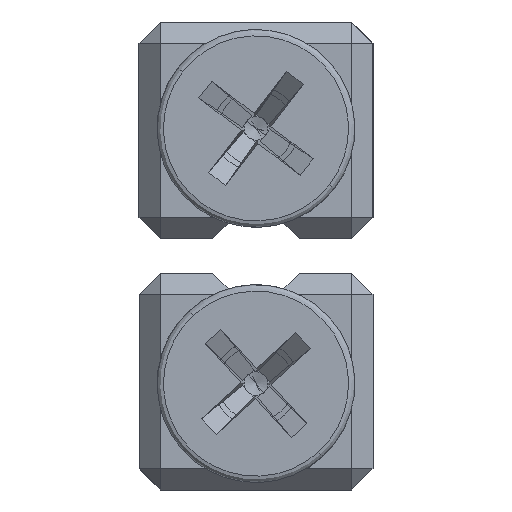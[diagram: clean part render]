
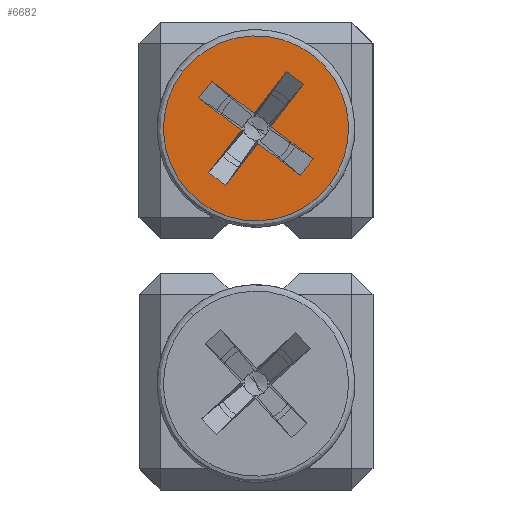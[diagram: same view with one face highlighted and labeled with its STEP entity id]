
A CAD part, left-side view. The second image highlights one B-rep face of the part: STEP entity #6682.
In plain terms, the highlighted planar face has unit normal (-1, 0, 0).
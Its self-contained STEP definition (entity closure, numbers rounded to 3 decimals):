
#59 = ORIENTED_EDGE ( 'NONE', *, *, #5593, .T. ) ;
#138 = VECTOR ( 'NONE', #4276, 1000. ) ;
#169 = DIRECTION ( 'NONE',  ( 0., -0.793, -0.609 ) ) ;
#193 = DIRECTION ( 'NONE',  ( 0., 0.793, 0.609 ) ) ;
#204 = EDGE_CURVE ( 'NONE', #3145, #6213, #6285, .T. ) ;
#288 = VECTOR ( 'NONE', #9930, 1000. ) ;
#388 = LINE ( 'NONE', #4364, #138 ) ;
#395 = LINE ( 'NONE', #9223, #288 ) ;
#410 = CARTESIAN_POINT ( 'NONE',  ( -222., 2.074, 14.125 ) ) ;
#598 = CIRCLE ( 'NONE', #6299, 4.35 ) ;
#611 = EDGE_LOOP ( 'NONE', ( #4221, #622 ) ) ;
#613 = DIRECTION ( 'NONE',  ( 0., -0.793, -0.609 ) ) ;
#618 = EDGE_CURVE ( 'NONE', #10939, #993, #2156, .T. ) ;
#622 = ORIENTED_EDGE ( 'NONE', *, *, #3072, .T. ) ;
#781 = FACE_BOUND ( 'NONE', #10329, .T. ) ;
#926 = FACE_OUTER_BOUND ( 'NONE', #611, .T. ) ;
#993 = VERTEX_POINT ( 'NONE', #5377 ) ;
#1005 = CARTESIAN_POINT ( 'NONE',  ( -222., -1.432, 14.583 ) ) ;
#1059 = ORIENTED_EDGE ( 'NONE', *, *, #9067, .F. ) ;
#1122 = AXIS2_PLACEMENT_3D ( 'NONE', #3041, #2534, #6489 ) ;
#1283 = CARTESIAN_POINT ( 'NONE',  ( -222., 2.225, 9.826 ) ) ;
#1409 = EDGE_CURVE ( 'NONE', #9754, #10939, #5006, .T. ) ;
#1435 = DIRECTION ( 'NONE',  ( 0., -0.793, -0.609 ) ) ;
#1891 = ORIENTED_EDGE ( 'NONE', *, *, #10918, .F. ) ;
#1919 = VECTOR ( 'NONE', #6579, 1000. ) ;
#1929 = CARTESIAN_POINT ( 'NONE',  ( -222., 2.225, 9.826 ) ) ;
#1941 = ORIENTED_EDGE ( 'NONE', *, *, #4985, .F. ) ;
#1982 = ORIENTED_EDGE ( 'NONE', *, *, #618, .T. ) ;
#2156 = LINE ( 'NONE', #7064, #1919 ) ;
#2220 = DIRECTION ( 'NONE',  ( 0., -0.609, 0.793 ) ) ;
#2276 = CARTESIAN_POINT ( 'NONE',  ( -222., 2.683, 13.332 ) ) ;
#2317 = CARTESIAN_POINT ( 'NONE',  ( -222., 2.074, 14.125 ) ) ;
#2534 = DIRECTION ( 'NONE',  ( -1., 0., 0. ) ) ;
#2657 = CARTESIAN_POINT ( 'NONE',  ( -222., 2.225, 9.826 ) ) ;
#2765 = EDGE_CURVE ( 'NONE', #9754, #6213, #395, .T. ) ;
#2777 = VERTEX_POINT ( 'NONE', #8272 ) ;
#2908 = DIRECTION ( 'NONE',  ( -1., 0., 0. ) ) ;
#3041 = CARTESIAN_POINT ( 'NONE',  ( -222., 0., 11.9 ) ) ;
#3072 = EDGE_CURVE ( 'NONE', #6516, #7557, #6643, .T. ) ;
#3145 = VERTEX_POINT ( 'NONE', #3664 ) ;
#3177 = VECTOR ( 'NONE', #6986, 1000. ) ;
#3313 = ORIENTED_EDGE ( 'NONE', *, *, #10317, .T. ) ;
#3469 = LINE ( 'NONE', #6181, #5191 ) ;
#3599 = CARTESIAN_POINT ( 'NONE',  ( -222., 2.225, 9.826 ) ) ;
#3664 = CARTESIAN_POINT ( 'NONE',  ( -222., -0.701, 11.992 ) ) ;
#3679 = DIRECTION ( 'NONE',  ( 0., 0.793, 0.609 ) ) ;
#3808 = ORIENTED_EDGE ( 'NONE', *, *, #4933, .T. ) ;
#3841 = VERTEX_POINT ( 'NONE', #2276 ) ;
#3886 = EDGE_CURVE ( 'NONE', #5922, #8430, #5028, .T. ) ;
#4127 = ORIENTED_EDGE ( 'NONE', *, *, #2765, .F. ) ;
#4221 = ORIENTED_EDGE ( 'NONE', *, *, #10383, .T. ) ;
#4276 = DIRECTION ( 'NONE',  ( 0., 0.793, 0.609 ) ) ;
#4364 = CARTESIAN_POINT ( 'NONE',  ( -222., -2.074, 9.675 ) ) ;
#4500 = VECTOR ( 'NONE', #169, 1000. ) ;
#4501 = CARTESIAN_POINT ( 'NONE',  ( -222., -2.683, 10.468 ) ) ;
#4792 = CARTESIAN_POINT ( 'NONE',  ( -222., 0.701, 11.808 ) ) ;
#4933 = EDGE_CURVE ( 'NONE', #8430, #9802, #10477, .T. ) ;
#4947 = VECTOR ( 'NONE', #3679, 1000. ) ;
#4972 = VECTOR ( 'NONE', #193, 1000. ) ;
#4984 = ORIENTED_EDGE ( 'NONE', *, *, #1409, .T. ) ;
#4985 = EDGE_CURVE ( 'NONE', #9774, #993, #9569, .T. ) ;
#5006 = LINE ( 'NONE', #5290, #4972 ) ;
#5028 = LINE ( 'NONE', #410, #4500 ) ;
#5191 = VECTOR ( 'NONE', #7804, 1000. ) ;
#5227 = LINE ( 'NONE', #9545, #4947 ) ;
#5290 = CARTESIAN_POINT ( 'NONE',  ( -222., -2.074, 9.675 ) ) ;
#5377 = CARTESIAN_POINT ( 'NONE',  ( -222., 1.432, 9.217 ) ) ;
#5416 = CARTESIAN_POINT ( 'NONE',  ( -222., 3.449, 14.551 ) ) ;
#5540 = DIRECTION ( 'NONE',  ( 0., 0.793, 0.609 ) ) ;
#5559 = DIRECTION ( 'NONE',  ( 1., 0., 0. ) ) ;
#5593 = EDGE_CURVE ( 'NONE', #8182, #3841, #388, .T. ) ;
#5660 = CARTESIAN_POINT ( 'NONE',  ( -222., -2.834, 15.587 ) ) ;
#5922 = VERTEX_POINT ( 'NONE', #7232 ) ;
#5939 = PLANE ( 'NONE',  #10261 ) ;
#6181 = CARTESIAN_POINT ( 'NONE',  ( -222., -2.225, 13.974 ) ) ;
#6213 = VERTEX_POINT ( 'NONE', #4501 ) ;
#6270 = VECTOR ( 'NONE', #613, 1000. ) ;
#6285 = LINE ( 'NONE', #7429, #6270 ) ;
#6299 = AXIS2_PLACEMENT_3D ( 'NONE', #7920, #2908, #8801 ) ;
#6489 = DIRECTION ( 'NONE',  ( 0., 0.793, 0.609 ) ) ;
#6516 = VERTEX_POINT ( 'NONE', #8115 ) ;
#6579 = DIRECTION ( 'NONE',  ( 0., 0.609, -0.793 ) ) ;
#6643 = CIRCLE ( 'NONE', #1122, 4.35 ) ;
#6682 = ADVANCED_FACE ( 'NONE', ( #926, #781 ), #5939, .F. ) ;
#6986 = DIRECTION ( 'NONE',  ( 0., -0.609, 0.793 ) ) ;
#7064 = CARTESIAN_POINT ( 'NONE',  ( -222., -2.225, 13.974 ) ) ;
#7232 = CARTESIAN_POINT ( 'NONE',  ( -222., 2.074, 14.125 ) ) ;
#7429 = CARTESIAN_POINT ( 'NONE',  ( -222., 2.074, 14.125 ) ) ;
#7557 = VERTEX_POINT ( 'NONE', #5416 ) ;
#7804 = DIRECTION ( 'NONE',  ( 0., 0.609, -0.793 ) ) ;
#7904 = LINE ( 'NONE', #1929, #3177 ) ;
#7920 = CARTESIAN_POINT ( 'NONE',  ( -222., 0., 11.9 ) ) ;
#8115 = CARTESIAN_POINT ( 'NONE',  ( -222., -3.449, 9.249 ) ) ;
#8182 = VERTEX_POINT ( 'NONE', #4792 ) ;
#8272 = CARTESIAN_POINT ( 'NONE',  ( -222., -2.225, 13.974 ) ) ;
#8430 = VERTEX_POINT ( 'NONE', #8660 ) ;
#8600 = VECTOR ( 'NONE', #10712, 1000. ) ;
#8606 = CARTESIAN_POINT ( 'NONE',  ( -222., -2.074, 9.675 ) ) ;
#8660 = CARTESIAN_POINT ( 'NONE',  ( -222., 0.092, 12.601 ) ) ;
#8801 = DIRECTION ( 'NONE',  ( 0., 0.793, 0.609 ) ) ;
#9067 = EDGE_CURVE ( 'NONE', #2777, #9802, #5227, .T. ) ;
#9095 = CARTESIAN_POINT ( 'NONE',  ( -222., -0.092, 11.199 ) ) ;
#9223 = CARTESIAN_POINT ( 'NONE',  ( -222., -2.074, 9.675 ) ) ;
#9397 = ORIENTED_EDGE ( 'NONE', *, *, #10774, .T. ) ;
#9545 = CARTESIAN_POINT ( 'NONE',  ( -222., -2.225, 13.974 ) ) ;
#9569 = LINE ( 'NONE', #1283, #10217 ) ;
#9754 = VERTEX_POINT ( 'NONE', #8606 ) ;
#9774 = VERTEX_POINT ( 'NONE', #3599 ) ;
#9802 = VERTEX_POINT ( 'NONE', #1005 ) ;
#9806 = ORIENTED_EDGE ( 'NONE', *, *, #3886, .T. ) ;
#9930 = DIRECTION ( 'NONE',  ( 0., -0.609, 0.793 ) ) ;
#10196 = ORIENTED_EDGE ( 'NONE', *, *, #204, .T. ) ;
#10217 = VECTOR ( 'NONE', #1435, 1000. ) ;
#10261 = AXIS2_PLACEMENT_3D ( 'NONE', #5660, #5559, #5540 ) ;
#10317 = EDGE_CURVE ( 'NONE', #2777, #3145, #3469, .T. ) ;
#10329 = EDGE_LOOP ( 'NONE', ( #10196, #4127, #4984, #1982, #1941, #9397, #59, #1891, #9806, #3808, #1059, #3313 ) ) ;
#10363 = VECTOR ( 'NONE', #2220, 1000. ) ;
#10383 = EDGE_CURVE ( 'NONE', #7557, #6516, #598, .T. ) ;
#10477 = LINE ( 'NONE', #2657, #10363 ) ;
#10560 = LINE ( 'NONE', #2317, #8600 ) ;
#10712 = DIRECTION ( 'NONE',  ( 0., 0.609, -0.793 ) ) ;
#10774 = EDGE_CURVE ( 'NONE', #9774, #8182, #7904, .T. ) ;
#10918 = EDGE_CURVE ( 'NONE', #5922, #3841, #10560, .T. ) ;
#10939 = VERTEX_POINT ( 'NONE', #9095 ) ;
